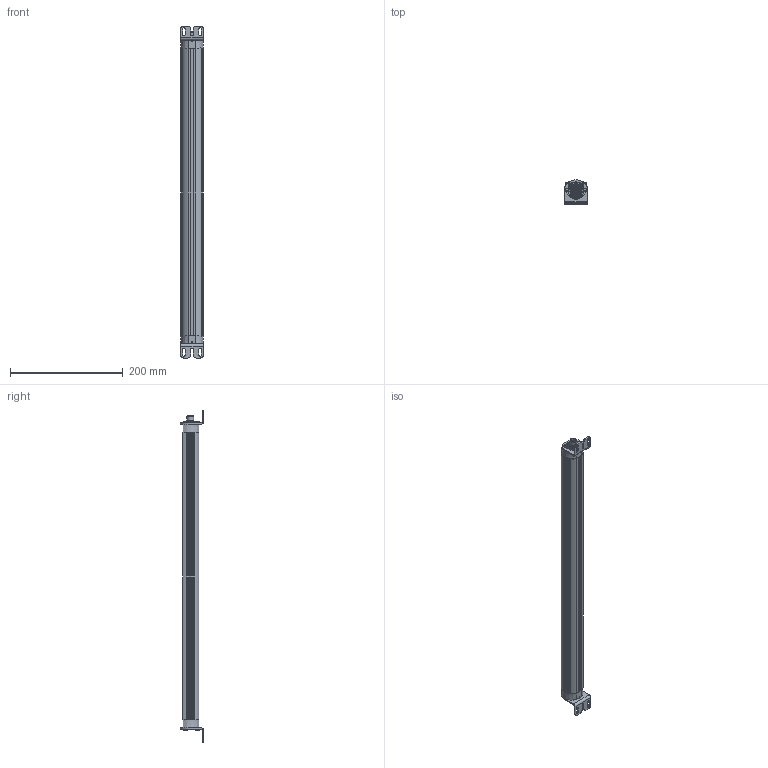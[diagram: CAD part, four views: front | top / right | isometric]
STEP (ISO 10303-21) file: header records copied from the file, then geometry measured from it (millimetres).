
FILE_DESCRIPTION(/* description */ (''),/* implementation_level */ '2;1');
FILE_NAME(/* name */ 'G:\Daten\Leuchten\07000 - LED LR40\03 - CAD\LR_40 LRO_40 540\led-aufbauleuchte-lr40-540.stp',/* time_stamp */ '2023-05-05T08:37:43+02:00',/* author */ ('gzahn'),/* organization */ (''),/* preprocessor_version */ 'ST-DEVELOPER v19',/* originating_system */ 'Autodesk Inventor 2023',/* authorisation */ '');
FILE_SCHEMA (('AUTOMOTIVE_DESIGN { 1 0 10303 214 3 1 1 }'));
Length unit declared in the file: millimetre
Products named in the file (1): led-aufbauleuchte-lr40-540
Bounding box: 40.01 x 42 x 590 mm (x, y, z)
Volume: 498368.4 mm3; surface area: 124147.7 mm2
Topology: 1 solids, 1 shells, 807 faces, 2281 edges, 1431 vertices
Faces by surface type: plane 350, cylinder 304, cone 97, bspline 30, torus 19, sphere 7
Full cylindrical faces by diameter (mm): 1 x5, 2.9 x8, 2.92 x12, 5.5 x8, 5.8 x8, 8 x6, 8.3 x1, 10.5 x1, 10.65 x1, 12 x1, 20 x2
Entity records: 29996 total; most frequent: CARTESIAN_POINT 8181, ORIENTED_EDGE 4540, DIRECTION 4473, EDGE_CURVE 2270, AXIS2_PLACEMENT_3D 1819, VERTEX_POINT 1431, CIRCLE 1023, EDGE_LOOP 867
